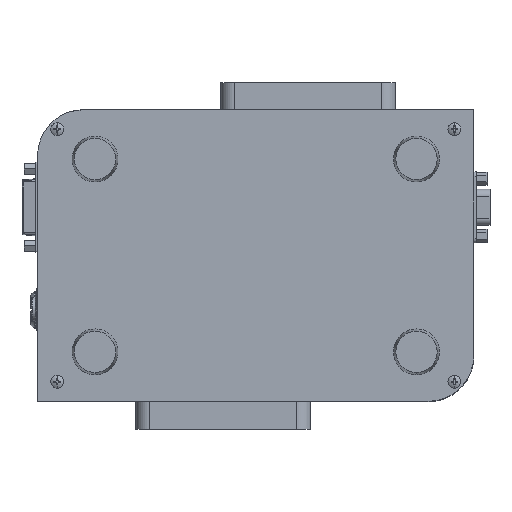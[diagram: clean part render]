
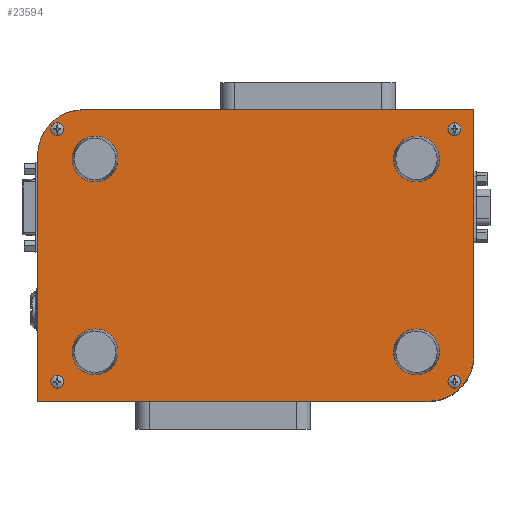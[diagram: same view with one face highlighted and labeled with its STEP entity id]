
A CAD part, top view. The second image highlights one B-rep face of the part: STEP entity #23594.
In plain terms, the highlighted planar face has unit normal (0, 0, 1).
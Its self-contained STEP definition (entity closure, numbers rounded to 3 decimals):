
#84 = ORIENTED_EDGE ( 'NONE', *, *, #19768, .T. ) ;
#386 = LINE ( 'NONE', #21226, #15912 ) ;
#752 = VERTEX_POINT ( 'NONE', #11426 ) ;
#967 = VERTEX_POINT ( 'NONE', #19337 ) ;
#1300 = LINE ( 'NONE', #16918, #14903 ) ;
#1632 = DIRECTION ( 'NONE',  ( 1., 0., 0. ) ) ;
#1677 = VECTOR ( 'NONE', #21479, 1000. ) ;
#2138 = CARTESIAN_POINT ( 'NONE',  ( 86.5, 55., 103. ) ) ;
#2247 = CARTESIAN_POINT ( 'NONE',  ( -86.5, 55., 103. ) ) ;
#2258 = VERTEX_POINT ( 'NONE', #20339 ) ;
#2572 = DIRECTION ( 'NONE',  ( 0., 1., 0. ) ) ;
#2724 = CARTESIAN_POINT ( 'NONE',  ( -85., -55., 103. ) ) ;
#2870 = AXIS2_PLACEMENT_3D ( 'NONE', #23723, #23639, #21392 ) ;
#3309 = CIRCLE ( 'NONE', #15453, 1.5 ) ;
#3342 = ORIENTED_EDGE ( 'NONE', *, *, #23955, .T. ) ;
#3446 = ORIENTED_EDGE ( 'NONE', *, *, #19685, .T. ) ;
#3549 = EDGE_CURVE ( 'NONE', #2258, #5963, #12773, .T. ) ;
#4238 = DIRECTION ( 'NONE',  ( 1., 0., 0. ) ) ;
#4325 = VERTEX_POINT ( 'NONE', #11361 ) ;
#4937 = DIRECTION ( 'NONE',  ( 0., 0., -1. ) ) ;
#4971 = CIRCLE ( 'NONE', #5767, 1.5 ) ;
#4995 = FACE_OUTER_BOUND ( 'NONE', #16883, .T. ) ;
#5058 = EDGE_LOOP ( 'NONE', ( #9786, #84 ) ) ;
#5508 = DIRECTION ( 'NONE',  ( -1., 0., 0. ) ) ;
#5767 = AXIS2_PLACEMENT_3D ( 'NONE', #16917, #6623, #8798 ) ;
#5963 = VERTEX_POINT ( 'NONE', #17869 ) ;
#6623 = DIRECTION ( 'NONE',  ( 0., 0., -1. ) ) ;
#6704 = ORIENTED_EDGE ( 'NONE', *, *, #18240, .F. ) ;
#6909 = ORIENTED_EDGE ( 'NONE', *, *, #21298, .F. ) ;
#7162 = DIRECTION ( 'NONE',  ( 1., 0., 0. ) ) ;
#7314 = CARTESIAN_POINT ( 'NONE',  ( -75.023, 43.464, 103. ) ) ;
#7480 = LINE ( 'NONE', #15392, #1677 ) ;
#7644 = VERTEX_POINT ( 'NONE', #9215 ) ;
#7879 = CARTESIAN_POINT ( 'NONE',  ( -86.5, -55., 103. ) ) ;
#8014 = EDGE_CURVE ( 'NONE', #752, #967, #9537, .T. ) ;
#8343 = AXIS2_PLACEMENT_3D ( 'NONE', #14259, #22327, #9942 ) ;
#8362 = CARTESIAN_POINT ( 'NONE',  ( 86.5, -55., 103. ) ) ;
#8426 = ORIENTED_EDGE ( 'NONE', *, *, #21462, .F. ) ;
#8447 = DIRECTION ( 'NONE',  ( 1., 0., 0. ) ) ;
#8798 = DIRECTION ( 'NONE',  ( 1., 0., 0. ) ) ;
#8938 = DIRECTION ( 'NONE',  ( 1., 0., 0. ) ) ;
#9179 = EDGE_CURVE ( 'NONE', #7644, #11406, #7480, .T. ) ;
#9215 = CARTESIAN_POINT ( 'NONE',  ( 74.977, -63.536, 103. ) ) ;
#9536 = FACE_BOUND ( 'NONE', #24616, .T. ) ;
#9537 = CIRCLE ( 'NONE', #14871, 1.5 ) ;
#9786 = ORIENTED_EDGE ( 'NONE', *, *, #24351, .T. ) ;
#9820 = VERTEX_POINT ( 'NONE', #2724 ) ;
#9942 = DIRECTION ( 'NONE',  ( 1., 0., 0. ) ) ;
#10696 = CIRCLE ( 'NONE', #2870, 1.5 ) ;
#10901 = CIRCLE ( 'NONE', #14003, 20. ) ;
#11361 = CARTESIAN_POINT ( 'NONE',  ( 94.977, -43.536, 103. ) ) ;
#11406 = VERTEX_POINT ( 'NONE', #25694 ) ;
#11426 = CARTESIAN_POINT ( 'NONE',  ( 88., 55., 103. ) ) ;
#11895 = CIRCLE ( 'NONE', #21871, 20. ) ;
#11945 = CIRCLE ( 'NONE', #15022, 1.5 ) ;
#12089 = AXIS2_PLACEMENT_3D ( 'NONE', #19505, #4937, #7162 ) ;
#12098 = VERTEX_POINT ( 'NONE', #18936 ) ;
#12634 = DIRECTION ( 'NONE',  ( 0., 0., -1. ) ) ;
#12746 = DIRECTION ( 'NONE',  ( 0., 0., -1. ) ) ;
#12773 = CIRCLE ( 'NONE', #20597, 1.5 ) ;
#12809 = CARTESIAN_POINT ( 'NONE',  ( -88., -55., 103. ) ) ;
#12918 = ORIENTED_EDGE ( 'NONE', *, *, #8014, .T. ) ;
#13700 = ORIENTED_EDGE ( 'NONE', *, *, #13970, .F. ) ;
#13843 = VECTOR ( 'NONE', #20941, 1000. ) ;
#13887 = EDGE_CURVE ( 'NONE', #16532, #12098, #24455, .T. ) ;
#13970 = EDGE_CURVE ( 'NONE', #26495, #4325, #20567, .T. ) ;
#14003 = AXIS2_PLACEMENT_3D ( 'NONE', #7314, #21711, #5508 ) ;
#14259 = CARTESIAN_POINT ( 'NONE',  ( 74.977, -43.536, 103. ) ) ;
#14315 = CARTESIAN_POINT ( 'NONE',  ( 94.977, 63.464, 103. ) ) ;
#14382 = FACE_BOUND ( 'NONE', #14992, .T. ) ;
#14657 = VERTEX_POINT ( 'NONE', #17917 ) ;
#14810 = DIRECTION ( 'NONE',  ( 0., 0., -1. ) ) ;
#14871 = AXIS2_PLACEMENT_3D ( 'NONE', #2138, #12746, #4238 ) ;
#14903 = VECTOR ( 'NONE', #2572, 1000. ) ;
#14946 = VERTEX_POINT ( 'NONE', #15573 ) ;
#14992 = EDGE_LOOP ( 'NONE', ( #26330, #3342 ) ) ;
#15014 = FACE_BOUND ( 'NONE', #20836, .T. ) ;
#15022 = AXIS2_PLACEMENT_3D ( 'NONE', #21238, #23134, #8938 ) ;
#15168 = ORIENTED_EDGE ( 'NONE', *, *, #17768, .F. ) ;
#15392 = CARTESIAN_POINT ( 'NONE',  ( 74.977, -63.536, 103. ) ) ;
#15453 = AXIS2_PLACEMENT_3D ( 'NONE', #7879, #22271, #1632 ) ;
#15573 = CARTESIAN_POINT ( 'NONE',  ( -75.023, 63.464, 103. ) ) ;
#15912 = VECTOR ( 'NONE', #23296, 1000. ) ;
#16524 = CARTESIAN_POINT ( 'NONE',  ( 74.977, -43.536, 103. ) ) ;
#16532 = VERTEX_POINT ( 'NONE', #26632 ) ;
#16883 = EDGE_LOOP ( 'NONE', ( #6704, #26502, #6909, #13700, #15168, #8426 ) ) ;
#16917 = CARTESIAN_POINT ( 'NONE',  ( -86.5, 55., 103. ) ) ;
#16918 = CARTESIAN_POINT ( 'NONE',  ( -95.023, 43.464, 103. ) ) ;
#17092 = CARTESIAN_POINT ( 'NONE',  ( 94.977, 63.464, 103. ) ) ;
#17768 = EDGE_CURVE ( 'NONE', #14946, #26495, #386, .T. ) ;
#17869 = CARTESIAN_POINT ( 'NONE',  ( -88., 55., 103. ) ) ;
#17917 = CARTESIAN_POINT ( 'NONE',  ( -95.023, 43.464, 103. ) ) ;
#18240 = EDGE_CURVE ( 'NONE', #11406, #14657, #1300, .T. ) ;
#18374 = PLANE ( 'NONE',  #8343 ) ;
#18936 = CARTESIAN_POINT ( 'NONE',  ( 88., -55., 103. ) ) ;
#19337 = CARTESIAN_POINT ( 'NONE',  ( 85., 55., 103. ) ) ;
#19505 = CARTESIAN_POINT ( 'NONE',  ( -86.5, -55., 103. ) ) ;
#19685 = EDGE_CURVE ( 'NONE', #967, #752, #10696, .T. ) ;
#19768 = EDGE_CURVE ( 'NONE', #23996, #9820, #24176, .T. ) ;
#20202 = EDGE_CURVE ( 'NONE', #12098, #16532, #11945, .T. ) ;
#20339 = CARTESIAN_POINT ( 'NONE',  ( -85., 55., 103. ) ) ;
#20567 = LINE ( 'NONE', #17092, #13843 ) ;
#20597 = AXIS2_PLACEMENT_3D ( 'NONE', #2247, #14810, #22782 ) ;
#20836 = EDGE_LOOP ( 'NONE', ( #23283, #22623 ) ) ;
#20897 = DIRECTION ( 'NONE',  ( 1., 0., 0. ) ) ;
#20941 = DIRECTION ( 'NONE',  ( 0., -1., 0. ) ) ;
#21226 = CARTESIAN_POINT ( 'NONE',  ( 94.977, 63.464, 103. ) ) ;
#21238 = CARTESIAN_POINT ( 'NONE',  ( 86.5, -55., 103. ) ) ;
#21298 = EDGE_CURVE ( 'NONE', #4325, #7644, #11895, .T. ) ;
#21343 = AXIS2_PLACEMENT_3D ( 'NONE', #8362, #12634, #8447 ) ;
#21392 = DIRECTION ( 'NONE',  ( 1., 0., 0. ) ) ;
#21462 = EDGE_CURVE ( 'NONE', #14657, #14946, #10901, .T. ) ;
#21479 = DIRECTION ( 'NONE',  ( -1., 0., 0. ) ) ;
#21711 = DIRECTION ( 'NONE',  ( 0., 0., -1. ) ) ;
#21871 = AXIS2_PLACEMENT_3D ( 'NONE', #16524, #22889, #20897 ) ;
#22271 = DIRECTION ( 'NONE',  ( 0., 0., -1. ) ) ;
#22327 = DIRECTION ( 'NONE',  ( 0., 0., -1. ) ) ;
#22623 = ORIENTED_EDGE ( 'NONE', *, *, #13887, .T. ) ;
#22782 = DIRECTION ( 'NONE',  ( 1., 0., 0. ) ) ;
#22889 = DIRECTION ( 'NONE',  ( 0., 0., -1. ) ) ;
#23134 = DIRECTION ( 'NONE',  ( 0., 0., -1. ) ) ;
#23283 = ORIENTED_EDGE ( 'NONE', *, *, #20202, .T. ) ;
#23296 = DIRECTION ( 'NONE',  ( 1., 0., 0. ) ) ;
#23594 = ADVANCED_FACE ( 'NONE', ( #24321, #15014, #9536, #14382, #4995 ), #18374, .F. ) ;
#23639 = DIRECTION ( 'NONE',  ( 0., 0., -1. ) ) ;
#23723 = CARTESIAN_POINT ( 'NONE',  ( 86.5, 55., 103. ) ) ;
#23955 = EDGE_CURVE ( 'NONE', #5963, #2258, #4971, .T. ) ;
#23996 = VERTEX_POINT ( 'NONE', #12809 ) ;
#24176 = CIRCLE ( 'NONE', #12089, 1.5 ) ;
#24321 = FACE_BOUND ( 'NONE', #5058, .T. ) ;
#24351 = EDGE_CURVE ( 'NONE', #9820, #23996, #3309, .T. ) ;
#24455 = CIRCLE ( 'NONE', #21343, 1.5 ) ;
#24616 = EDGE_LOOP ( 'NONE', ( #12918, #3446 ) ) ;
#25694 = CARTESIAN_POINT ( 'NONE',  ( -95.023, -63.536, 103. ) ) ;
#26330 = ORIENTED_EDGE ( 'NONE', *, *, #3549, .T. ) ;
#26495 = VERTEX_POINT ( 'NONE', #14315 ) ;
#26502 = ORIENTED_EDGE ( 'NONE', *, *, #9179, .F. ) ;
#26632 = CARTESIAN_POINT ( 'NONE',  ( 85., -55., 103. ) ) ;
